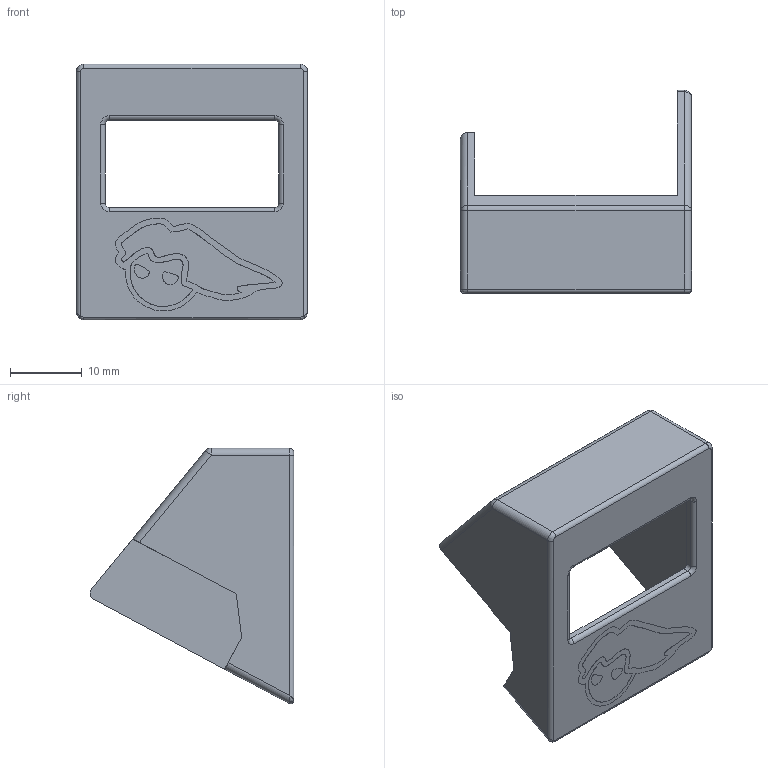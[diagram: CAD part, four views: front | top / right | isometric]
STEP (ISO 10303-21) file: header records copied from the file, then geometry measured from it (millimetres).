
FILE_DESCRIPTION(/* description */ (''),/* implementation_level */ '2;1');
FILE_NAME(/* name */ 'Body with logo - sideUSB.step',/* time_stamp */ '2025-11-27T12:23:30+01:00',/* author */ (''),/* organization */ (''),/* preprocessor_version */ 'ST-DEVELOPER v20.1',/* originating_system */ 'Autodesk Translation Framework v14.21.0.0',/* authorisation */ '');
FILE_SCHEMA (('AUTOMOTIVE_DESIGN { 1 0 10303 214 3 1 1 }'));
Length unit declared in the file: millimetre
Products named in the file (6): Body with logo; Face; hair; border; Eyes; Body with logo (1)
Assembly tree (5 placements, depth 2):
  Body with logo
    Face
    hair
    border
    Eyes
    Body with logo (1)
Bounding box: 32.2 x 28.35 x 35.63 mm (x, y, z)
Volume: 4651.2 mm3; surface area: 5533 mm2
Topology: 6 solids, 6 shells, 264 faces, 710 edges, 461 vertices
Faces by surface type: bspline 159, plane 70, cylinder 24, cone 4, torus 4, sphere 3
Full cylindrical faces by diameter (mm): 1.8 x4
Entity records: 8981 total; most frequent: CARTESIAN_POINT 3714, ORIENTED_EDGE 1416, EDGE_CURVE 708, DIRECTION 676, VERTEX_POINT 461, LINE 336, VECTOR 336, EDGE_LOOP 279
